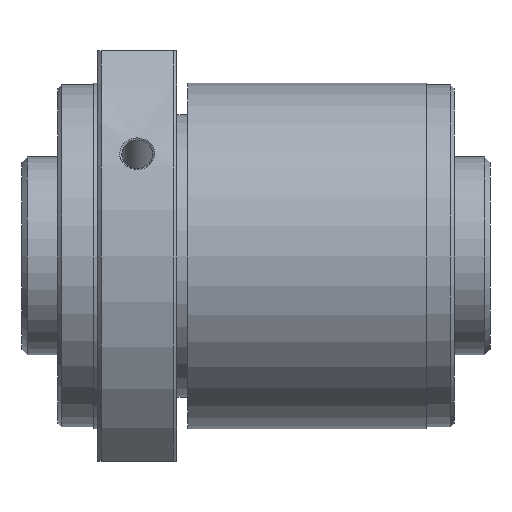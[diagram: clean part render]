
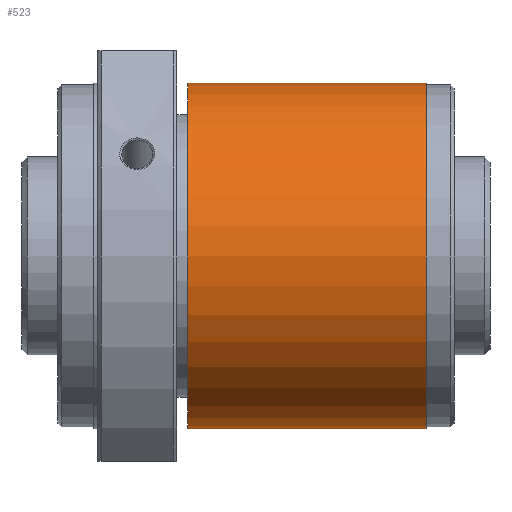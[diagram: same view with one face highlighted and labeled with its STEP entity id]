
A CAD part, front view. The second image highlights one B-rep face of the part: STEP entity #523.
In plain terms, the highlighted cylindrical face has radius 48 mm (diameter 96 mm), a full revolution.
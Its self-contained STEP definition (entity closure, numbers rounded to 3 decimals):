
#61=CYLINDRICAL_SURFACE('',#605,48.);
#121=ORIENTED_EDGE('',*,*,#223,.T.);
#122=ORIENTED_EDGE('',*,*,#222,.F.);
#222=EDGE_CURVE('',#277,#277,#320,.T.);
#223=EDGE_CURVE('',#278,#278,#321,.T.);
#277=VERTEX_POINT('',#910);
#278=VERTEX_POINT('',#913);
#320=CIRCLE('',#604,48.);
#321=CIRCLE('',#606,48.);
#370=EDGE_LOOP('',(#121));
#371=EDGE_LOOP('',(#122));
#446=FACE_BOUND('',#370,.T.);
#447=FACE_BOUND('',#371,.T.);
#523=ADVANCED_FACE('',(#446,#447),#61,.T.);
#604=AXIS2_PLACEMENT_3D('',#909,#723,#724);
#605=AXIS2_PLACEMENT_3D('',#911,#725,#726);
#606=AXIS2_PLACEMENT_3D('',#912,#727,#728);
#723=DIRECTION('',(1.,0.,0.));
#724=DIRECTION('',(0.,0.,-1.));
#725=DIRECTION('',(1.,0.,0.));
#726=DIRECTION('',(0.,0.,-1.));
#727=DIRECTION('',(1.,0.,0.));
#728=DIRECTION('',(0.,0.,-1.));
#909=CARTESIAN_POINT('',(102.3,0.,0.));
#910=CARTESIAN_POINT('',(102.3,0.,-48.));
#911=CARTESIAN_POINT('',(110.,0.,0.));
#912=CARTESIAN_POINT('',(36.,0.,0.));
#913=CARTESIAN_POINT('',(36.,0.,-48.));
